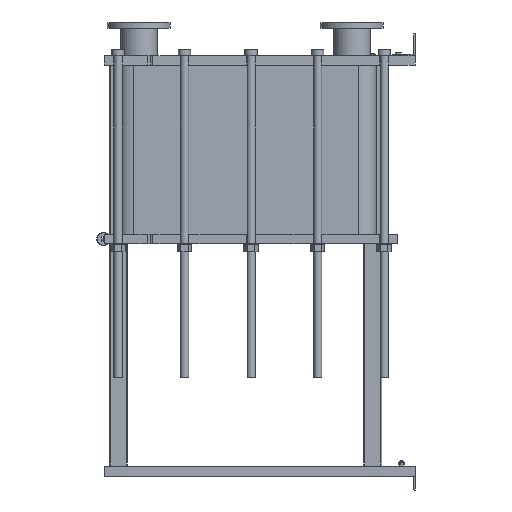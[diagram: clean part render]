
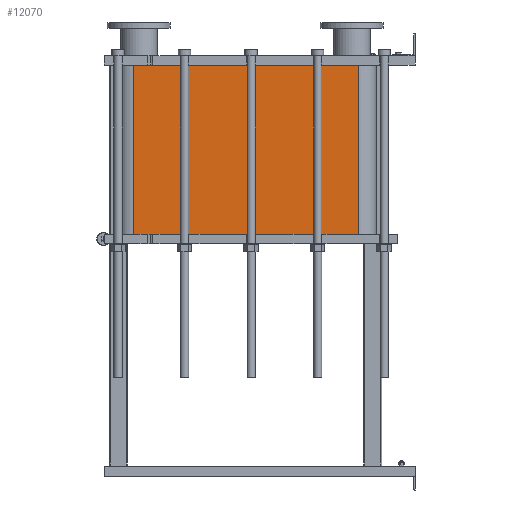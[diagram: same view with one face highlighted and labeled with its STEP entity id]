
A CAD part, left-side view. The second image highlights one B-rep face of the part: STEP entity #12070.
In plain terms, the highlighted planar face has unit normal (-1, 0, 0).
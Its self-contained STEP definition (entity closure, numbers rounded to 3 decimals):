
#1064=LINE('',#21140,#2164);
#1065=LINE('',#21144,#2165);
#1066=LINE('',#21146,#2166);
#1067=LINE('',#21147,#2167);
#2164=VECTOR('',#15790,10.);
#2165=VECTOR('',#15795,10.);
#2166=VECTOR('',#15796,10.);
#2167=VECTOR('',#15797,10.);
#3304=FACE_OUTER_BOUND('',#4091,.T.);
#4091=EDGE_LOOP('',(#9793,#9794,#9795,#9796));
#5677=VERTEX_POINT('',#21137);
#5678=VERTEX_POINT('',#21139);
#5679=VERTEX_POINT('',#21143);
#5680=VERTEX_POINT('',#21145);
#7118=EDGE_CURVE('',#5678,#5677,#1064,.T.);
#7120=EDGE_CURVE('',#5677,#5679,#1065,.T.);
#7121=EDGE_CURVE('',#5680,#5679,#1066,.T.);
#7122=EDGE_CURVE('',#5680,#5678,#1067,.T.);
#9793=ORIENTED_EDGE('',*,*,#7120,.T.);
#9794=ORIENTED_EDGE('',*,*,#7121,.F.);
#9795=ORIENTED_EDGE('',*,*,#7122,.T.);
#9796=ORIENTED_EDGE('',*,*,#7118,.T.);
#11441=PLANE('',#13191);
#12070=ADVANCED_FACE('',(#3304),#11441,.T.);
#13191=AXIS2_PLACEMENT_3D('',#21142,#15793,#15794);
#15790=DIRECTION('',(0.,0.,-1.));
#15793=DIRECTION('center_axis',(-1.,0.,0.));
#15794=DIRECTION('ref_axis',(0.,1.,0.));
#15795=DIRECTION('',(0.,-1.,0.));
#15796=DIRECTION('',(0.,0.,-1.));
#15797=DIRECTION('',(0.,1.,0.));
#21137=CARTESIAN_POINT('',(-248.152,1243.818,-748.65));
#21139=CARTESIAN_POINT('',(-248.152,1243.818,0.));
#21140=CARTESIAN_POINT('',(-248.152,1243.818,0.));
#21142=CARTESIAN_POINT('Origin',(-248.152,251.818,0.));
#21143=CARTESIAN_POINT('',(-248.152,251.818,-748.65));
#21144=CARTESIAN_POINT('',(-248.152,499.818,-748.65));
#21145=CARTESIAN_POINT('',(-248.152,251.818,0.));
#21146=CARTESIAN_POINT('',(-248.152,251.818,0.));
#21147=CARTESIAN_POINT('',(-248.152,251.818,0.));
